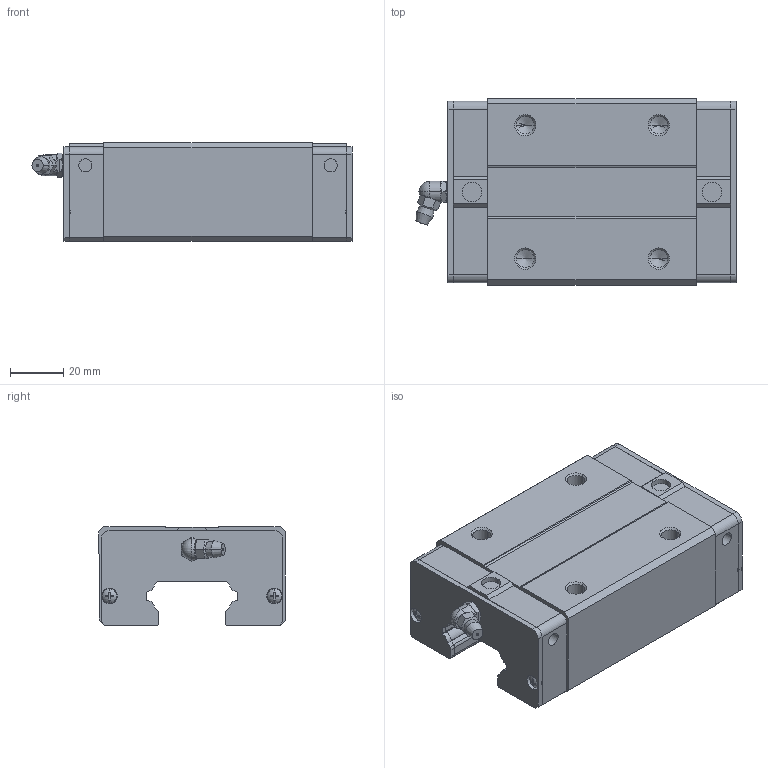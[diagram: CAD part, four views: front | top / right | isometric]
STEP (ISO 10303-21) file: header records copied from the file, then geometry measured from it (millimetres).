
FILE_DESCRIPTION(('starvars output'),'2;1');
FILE_NAME('cv20190609225532000174204.stp','22:55:33 2019/06/09',( 'Thomas Industrial Network Germany GmbH'),( 'Thomas Industrial Network Germany GmbH'),'unknown preprocess','ACIS' ,'unknown authorization');
FILE_SCHEMA(('CONFIG_CONTROL_DESIGN {UNKNOWN IMPLEMENTATION LEVEL}'));
Length unit declared in the file: millimetre
Products named in the file (10): PRODUCT_ID_1; PRODUCT_ID_2; PRODUCT_ID_3; PRODUCT_ID_4; PRODUCT_ID_5; PRODUCT_ID_6; PRODUCT_ID_7; PRODUCT_ID_8; PRODUCT_ID_9; PRODUCT_ID_10
Bounding box: 120 x 70 x 37 mm (x, y, z)
Volume: 219660.5 mm3; surface area: 49415.6 mm2
Topology: 10 solids, 10 shells, 445 faces, 1160 edges, 744 vertices
Faces by surface type: plane 226, cylinder 143, cone 64, sphere 12
Entity records: 13234 total; most frequent: ORIENTED_EDGE 2296, CARTESIAN_POINT 2170, DIRECTION 1949, EDGE_CURVE 1148, VERTEX_POINT 744, VECTOR 651, LINE 651, AXIS2_PLACEMENT_3D 649
